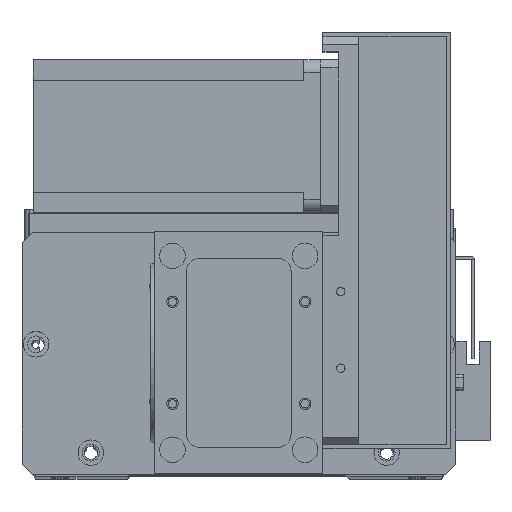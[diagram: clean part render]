
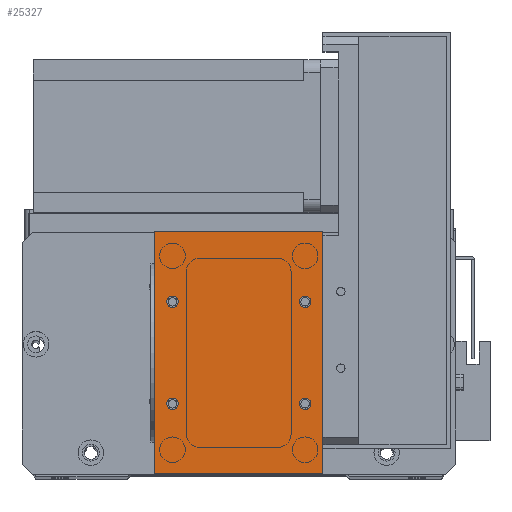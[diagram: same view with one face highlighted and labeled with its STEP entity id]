
A CAD part, top view. The second image highlights one B-rep face of the part: STEP entity #25327.
In plain terms, the highlighted planar face has unit normal (0, 0, 1).
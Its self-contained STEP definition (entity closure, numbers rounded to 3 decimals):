
#229 = VERTEX_POINT ( 'NONE', #9191 ) ;
#341 = EDGE_CURVE ( 'NONE', #20024, #27812, #7324, .T. ) ;
#1235 = ORIENTED_EDGE ( 'NONE', *, *, #9487, .T. ) ;
#1691 = CARTESIAN_POINT ( 'NONE',  ( 61.25, 67.5, 2. ) ) ;
#1716 = EDGE_LOOP ( 'NONE', ( #9929, #30826 ) ) ;
#2009 = VERTEX_POINT ( 'NONE', #15138 ) ;
#2156 = EDGE_LOOP ( 'NONE', ( #29569, #3343 ) ) ;
#2312 = ORIENTED_EDGE ( 'NONE', *, *, #29999, .F. ) ;
#2535 = CARTESIAN_POINT ( 'NONE',  ( 66., 95., 2. ) ) ;
#2588 = VECTOR ( 'NONE', #30118, 1000. ) ;
#2667 = VERTEX_POINT ( 'NONE', #26070 ) ;
#3239 = VECTOR ( 'NONE', #21460, 1000. ) ;
#3338 = DIRECTION ( 'NONE',  ( 0., 0., 1. ) ) ;
#3343 = ORIENTED_EDGE ( 'NONE', *, *, #27278, .F. ) ;
#3603 = VERTEX_POINT ( 'NONE', #9472 ) ;
#3881 = CARTESIAN_POINT ( 'NONE',  ( 7., 67.5, 2. ) ) ;
#3957 = CARTESIAN_POINT ( 'NONE',  ( 59., 27.5, 2. ) ) ;
#4019 = CIRCLE ( 'NONE', #26418, 2.25 ) ;
#4088 = LINE ( 'NONE', #25201, #2588 ) ;
#4858 = EDGE_LOOP ( 'NONE', ( #30878, #10944 ) ) ;
#5237 = LINE ( 'NONE', #7788, #18295 ) ;
#5372 = VERTEX_POINT ( 'NONE', #17949 ) ;
#5785 = EDGE_CURVE ( 'NONE', #2009, #7984, #19001, .T. ) ;
#5853 = VERTEX_POINT ( 'NONE', #17647 ) ;
#5879 = AXIS2_PLACEMENT_3D ( 'NONE', #21873, #7599, #24250 ) ;
#6286 = DIRECTION ( 'NONE',  ( 1., 0., 0. ) ) ;
#6344 = DIRECTION ( 'NONE',  ( 1., 0., 0. ) ) ;
#6851 = EDGE_LOOP ( 'NONE', ( #1235, #7951, #26778, #10616 ) ) ;
#7058 = AXIS2_PLACEMENT_3D ( 'NONE', #27001, #12704, #29423 ) ;
#7324 = CIRCLE ( 'NONE', #9996, 2.25 ) ;
#7492 = VERTEX_POINT ( 'NONE', #23876 ) ;
#7599 = DIRECTION ( 'NONE',  ( 0., 0., 1. ) ) ;
#7693 = EDGE_CURVE ( 'NONE', #229, #2667, #19643, .T. ) ;
#7788 = CARTESIAN_POINT ( 'NONE',  ( 0., 0., 2. ) ) ;
#7951 = ORIENTED_EDGE ( 'NONE', *, *, #10420, .T. ) ;
#7984 = VERTEX_POINT ( 'NONE', #1691 ) ;
#8196 = EDGE_CURVE ( 'NONE', #7984, #2009, #18130, .T. ) ;
#9030 = DIRECTION ( 'NONE',  ( -1., 0., 0. ) ) ;
#9120 = VERTEX_POINT ( 'NONE', #2535 ) ;
#9191 = CARTESIAN_POINT ( 'NONE',  ( 9.25, 27.5, 2. ) ) ;
#9472 = CARTESIAN_POINT ( 'NONE',  ( 4.75, 67.5, 2. ) ) ;
#9487 = EDGE_CURVE ( 'NONE', #5372, #7492, #29616, .T. ) ;
#9599 = AXIS2_PLACEMENT_3D ( 'NONE', #18989, #18888, #18781 ) ;
#9929 = ORIENTED_EDGE ( 'NONE', *, *, #8196, .F. ) ;
#9996 = AXIS2_PLACEMENT_3D ( 'NONE', #27329, #24738, #22647 ) ;
#10420 = EDGE_CURVE ( 'NONE', #7492, #18589, #5237, .T. ) ;
#10538 = FACE_OUTER_BOUND ( 'NONE', #6851, .T. ) ;
#10562 = VECTOR ( 'NONE', #13429, 1000. ) ;
#10616 = ORIENTED_EDGE ( 'NONE', *, *, #27797, .T. ) ;
#10944 = ORIENTED_EDGE ( 'NONE', *, *, #341, .F. ) ;
#11289 = FACE_BOUND ( 'NONE', #26181, .T. ) ;
#11541 = CARTESIAN_POINT ( 'NONE',  ( 7., 27.5, 2. ) ) ;
#11968 = EDGE_CURVE ( 'NONE', #27812, #20024, #13713, .T. ) ;
#12704 = DIRECTION ( 'NONE',  ( 0., 0., 1. ) ) ;
#13429 = DIRECTION ( 'NONE',  ( 0., -1., 0. ) ) ;
#13713 = CIRCLE ( 'NONE', #16206, 2.25 ) ;
#13958 = DIRECTION ( 'NONE',  ( 1., 0., 0. ) ) ;
#14791 = AXIS2_PLACEMENT_3D ( 'NONE', #11541, #28242, #13958 ) ;
#15138 = CARTESIAN_POINT ( 'NONE',  ( 56.75, 67.5, 2. ) ) ;
#15410 = ORIENTED_EDGE ( 'NONE', *, *, #17171, .F. ) ;
#15835 = CARTESIAN_POINT ( 'NONE',  ( 0., 0., 2. ) ) ;
#16206 = AXIS2_PLACEMENT_3D ( 'NONE', #3957, #20591, #6344 ) ;
#16670 = CARTESIAN_POINT ( 'NONE',  ( 66., 0., 2. ) ) ;
#16781 = CIRCLE ( 'NONE', #14791, 2.25 ) ;
#16904 = FACE_BOUND ( 'NONE', #1716, .T. ) ;
#17032 = EDGE_CURVE ( 'NONE', #18589, #9120, #29339, .T. ) ;
#17171 = EDGE_CURVE ( 'NONE', #3603, #5853, #17769, .T. ) ;
#17606 = CARTESIAN_POINT ( 'NONE',  ( 7., 67.5, 2. ) ) ;
#17647 = CARTESIAN_POINT ( 'NONE',  ( 9.25, 67.5, 2. ) ) ;
#17769 = CIRCLE ( 'NONE', #26870, 2.25 ) ;
#17949 = CARTESIAN_POINT ( 'NONE',  ( 0., 95., 2. ) ) ;
#18130 = CIRCLE ( 'NONE', #5879, 2.25 ) ;
#18228 = CARTESIAN_POINT ( 'NONE',  ( 61.25, 27.5, 2. ) ) ;
#18295 = VECTOR ( 'NONE', #24452, 1000. ) ;
#18522 = PLANE ( 'NONE',  #27307 ) ;
#18589 = VERTEX_POINT ( 'NONE', #18653 ) ;
#18653 = CARTESIAN_POINT ( 'NONE',  ( 66., 0., 2. ) ) ;
#18781 = DIRECTION ( 'NONE',  ( 1., 0., 0. ) ) ;
#18888 = DIRECTION ( 'NONE',  ( 0., 0., 1. ) ) ;
#18989 = CARTESIAN_POINT ( 'NONE',  ( 59., 67.5, 2. ) ) ;
#19001 = CIRCLE ( 'NONE', #9599, 2.25 ) ;
#19643 = CIRCLE ( 'NONE', #7058, 2.25 ) ;
#20017 = DIRECTION ( 'NONE',  ( 1., 0., 0. ) ) ;
#20024 = VERTEX_POINT ( 'NONE', #24440 ) ;
#20521 = DIRECTION ( 'NONE',  ( 0., 0., 1. ) ) ;
#20591 = DIRECTION ( 'NONE',  ( 0., 0., 1. ) ) ;
#21460 = DIRECTION ( 'NONE',  ( 0., 1., 0. ) ) ;
#21873 = CARTESIAN_POINT ( 'NONE',  ( 59., 67.5, 2. ) ) ;
#22647 = DIRECTION ( 'NONE',  ( 1., 0., 0. ) ) ;
#23221 = FACE_BOUND ( 'NONE', #2156, .T. ) ;
#23299 = DIRECTION ( 'NONE',  ( 0., 0., -1. ) ) ;
#23876 = CARTESIAN_POINT ( 'NONE',  ( 0., 0., 2. ) ) ;
#24250 = DIRECTION ( 'NONE',  ( 1., 0., 0. ) ) ;
#24440 = CARTESIAN_POINT ( 'NONE',  ( 56.75, 27.5, 2. ) ) ;
#24452 = DIRECTION ( 'NONE',  ( 1., 0., 0. ) ) ;
#24738 = DIRECTION ( 'NONE',  ( 0., 0., 1. ) ) ;
#25201 = CARTESIAN_POINT ( 'NONE',  ( 0., 95., 2. ) ) ;
#25327 = ADVANCED_FACE ( 'NONE', ( #11289, #16904, #29601, #23221, #10538 ), #18522, .F. ) ;
#26070 = CARTESIAN_POINT ( 'NONE',  ( 4.75, 27.5, 2. ) ) ;
#26181 = EDGE_LOOP ( 'NONE', ( #2312, #15410 ) ) ;
#26418 = AXIS2_PLACEMENT_3D ( 'NONE', #3881, #20521, #6286 ) ;
#26778 = ORIENTED_EDGE ( 'NONE', *, *, #17032, .T. ) ;
#26870 = AXIS2_PLACEMENT_3D ( 'NONE', #17606, #3338, #20017 ) ;
#27001 = CARTESIAN_POINT ( 'NONE',  ( 7., 27.5, 2. ) ) ;
#27278 = EDGE_CURVE ( 'NONE', #2667, #229, #16781, .T. ) ;
#27307 = AXIS2_PLACEMENT_3D ( 'NONE', #30423, #23299, #9030 ) ;
#27329 = CARTESIAN_POINT ( 'NONE',  ( 59., 27.5, 2. ) ) ;
#27797 = EDGE_CURVE ( 'NONE', #9120, #5372, #4088, .T. ) ;
#27812 = VERTEX_POINT ( 'NONE', #18228 ) ;
#28242 = DIRECTION ( 'NONE',  ( 0., 0., 1. ) ) ;
#29339 = LINE ( 'NONE', #16670, #3239 ) ;
#29423 = DIRECTION ( 'NONE',  ( 1., 0., 0. ) ) ;
#29569 = ORIENTED_EDGE ( 'NONE', *, *, #7693, .F. ) ;
#29601 = FACE_BOUND ( 'NONE', #4858, .T. ) ;
#29616 = LINE ( 'NONE', #15835, #10562 ) ;
#29999 = EDGE_CURVE ( 'NONE', #5853, #3603, #4019, .T. ) ;
#30118 = DIRECTION ( 'NONE',  ( -1., 0., 0. ) ) ;
#30423 = CARTESIAN_POINT ( 'NONE',  ( 0., 0., 2. ) ) ;
#30826 = ORIENTED_EDGE ( 'NONE', *, *, #5785, .F. ) ;
#30878 = ORIENTED_EDGE ( 'NONE', *, *, #11968, .F. ) ;
